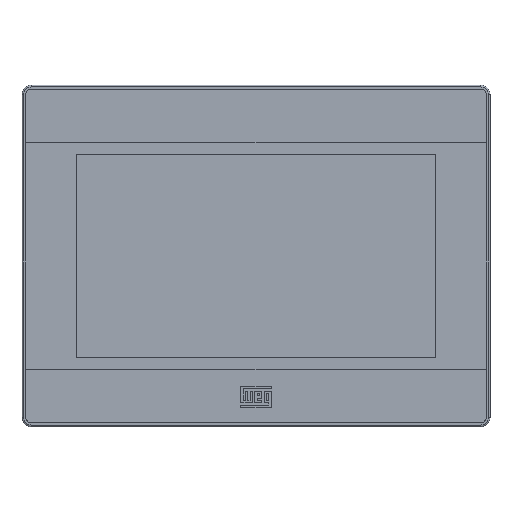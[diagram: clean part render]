
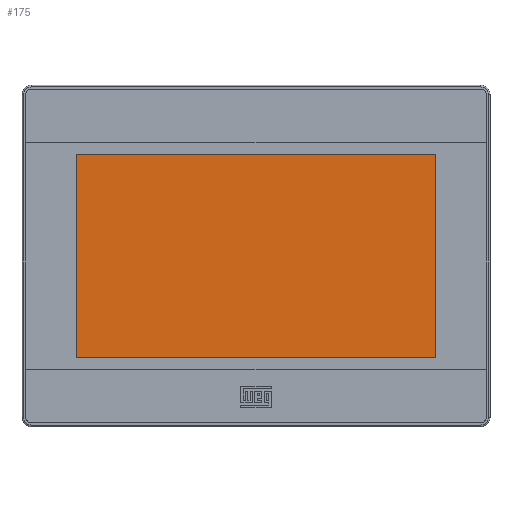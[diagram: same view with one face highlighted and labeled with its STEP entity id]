
A CAD part, top view. The second image highlights one B-rep face of the part: STEP entity #175.
In plain terms, the highlighted planar face has unit normal (0, 0, 1).
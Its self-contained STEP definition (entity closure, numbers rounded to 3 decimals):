
#42 = FACE_OUTER_BOUND ( 'NONE', #482, .T. ) ;
#65 = LINE ( 'NONE', #1570, #3918 ) ;
#143 = DIRECTION ( 'NONE',  ( 1., 0., 0. ) ) ;
#170 = CARTESIAN_POINT ( 'NONE',  ( 76.825, 43.309, 33.95 ) ) ;
#175 = ADVANCED_FACE ( 'NONE', ( #42 ), #2802, .T. ) ;
#418 = CARTESIAN_POINT ( 'NONE',  ( -76.825, -43.31, 33.95 ) ) ;
#482 = EDGE_LOOP ( 'NONE', ( #2739, #2490, #3340, #3937 ) ) ;
#572 = VERTEX_POINT ( 'NONE', #934 ) ;
#633 = CARTESIAN_POINT ( 'NONE',  ( 76.825, -43.31, 33.95 ) ) ;
#764 = CARTESIAN_POINT ( 'NONE',  ( -76.825, -43.31, 33.95 ) ) ;
#934 = CARTESIAN_POINT ( 'NONE',  ( 76.825, 43.309, 33.95 ) ) ;
#1314 = DIRECTION ( 'NONE',  ( 0., 0., 1. ) ) ;
#1570 = CARTESIAN_POINT ( 'NONE',  ( -76.825, 43.309, 33.95 ) ) ;
#1618 = EDGE_CURVE ( 'NONE', #3050, #2676, #3077, .T. ) ;
#1766 = VECTOR ( 'NONE', #143, 1000. ) ;
#1932 = LINE ( 'NONE', #633, #3444 ) ;
#2170 = CARTESIAN_POINT ( 'NONE',  ( -76.825, 43.309, 33.95 ) ) ;
#2176 = VECTOR ( 'NONE', #2918, 1000. ) ;
#2490 = ORIENTED_EDGE ( 'NONE', *, *, #1618, .T. ) ;
#2507 = DIRECTION ( 'NONE',  ( 0., -1., 0. ) ) ;
#2594 = AXIS2_PLACEMENT_3D ( 'NONE', #3717, #1314, #3445 ) ;
#2676 = VERTEX_POINT ( 'NONE', #3558 ) ;
#2739 = ORIENTED_EDGE ( 'NONE', *, *, #3587, .T. ) ;
#2800 = VERTEX_POINT ( 'NONE', #2170 ) ;
#2802 = PLANE ( 'NONE',  #2594 ) ;
#2918 = DIRECTION ( 'NONE',  ( -1., 0., 0. ) ) ;
#3020 = LINE ( 'NONE', #170, #2176 ) ;
#3050 = VERTEX_POINT ( 'NONE', #764 ) ;
#3077 = LINE ( 'NONE', #418, #1766 ) ;
#3299 = EDGE_CURVE ( 'NONE', #2676, #572, #1932, .T. ) ;
#3340 = ORIENTED_EDGE ( 'NONE', *, *, #3299, .T. ) ;
#3378 = DIRECTION ( 'NONE',  ( 0., 1., 0. ) ) ;
#3444 = VECTOR ( 'NONE', #3378, 1000. ) ;
#3445 = DIRECTION ( 'NONE',  ( 1., 0., 0. ) ) ;
#3558 = CARTESIAN_POINT ( 'NONE',  ( 76.825, -43.31, 33.95 ) ) ;
#3587 = EDGE_CURVE ( 'NONE', #2800, #3050, #65, .T. ) ;
#3717 = CARTESIAN_POINT ( 'NONE',  ( 0., 0., 33.95 ) ) ;
#3847 = EDGE_CURVE ( 'NONE', #572, #2800, #3020, .T. ) ;
#3918 = VECTOR ( 'NONE', #2507, 1000. ) ;
#3937 = ORIENTED_EDGE ( 'NONE', *, *, #3847, .T. ) ;
